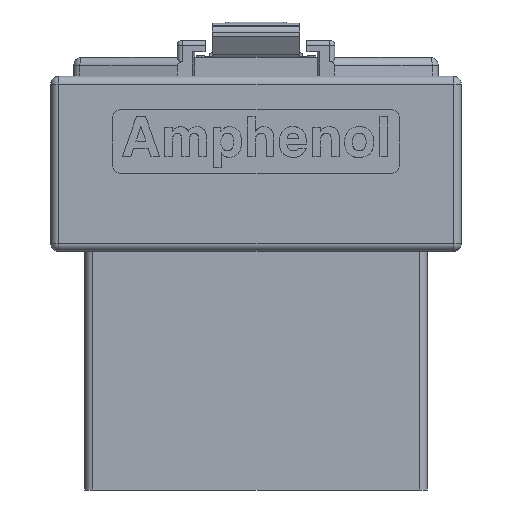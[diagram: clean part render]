
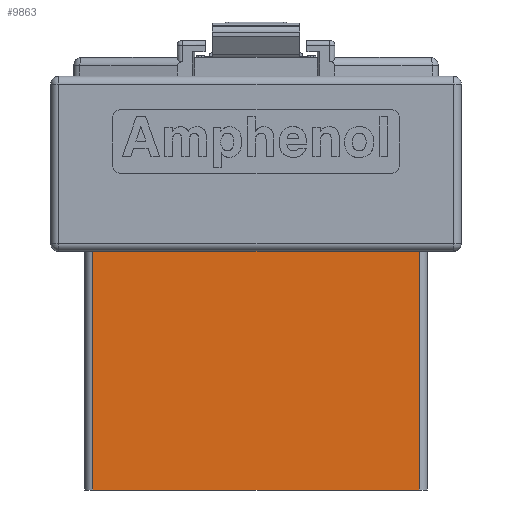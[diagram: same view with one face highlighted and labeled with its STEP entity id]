
A CAD part, front view. The second image highlights one B-rep face of the part: STEP entity #9863.
In plain terms, the highlighted planar face has unit normal (0, -1, 0).
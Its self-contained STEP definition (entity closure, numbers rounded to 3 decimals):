
#702=DIRECTION('',(-1.,0.,0.));
#703=VECTOR('',#702,20.5);
#704=CARTESIAN_POINT('',(22.6,0.925,-7.693));
#705=LINE('',#704,#703);
#2716=DIRECTION('',(0.,0.,1.));
#2717=VECTOR('',#2716,15.);
#2718=CARTESIAN_POINT('',(2.1,0.925,-22.693));
#2719=LINE('',#2718,#2717);
#2720=DIRECTION('',(0.,0.,-1.));
#2721=VECTOR('',#2720,15.);
#2722=CARTESIAN_POINT('',(22.6,0.925,-7.693));
#2723=LINE('',#2722,#2721);
#2734=DIRECTION('',(-1.,0.,0.));
#2735=VECTOR('',#2734,20.5);
#2736=CARTESIAN_POINT('',(22.6,0.925,-22.693));
#2737=LINE('',#2736,#2735);
#5834=CARTESIAN_POINT('',(2.1,0.925,-22.693));
#5835=CARTESIAN_POINT('',(2.1,0.925,-7.693));
#5836=VERTEX_POINT('',#5834);
#5837=VERTEX_POINT('',#5835);
#5851=CARTESIAN_POINT('',(22.6,0.925,-22.693));
#5853=VERTEX_POINT('',#5851);
#5854=CARTESIAN_POINT('',(22.6,0.925,-7.693));
#5855=VERTEX_POINT('',#5854);
#9850=CARTESIAN_POINT('',(23.1,0.925,-7.693));
#9851=DIRECTION('',(0.,-1.,0.));
#9852=DIRECTION('',(-1.,0.,0.));
#9853=AXIS2_PLACEMENT_3D('',#9850,#9851,#9852);
#9854=PLANE('',#9853);
#9855=ORIENTED_EDGE('',*,*,#9841,.T.);
#9856=ORIENTED_EDGE('',*,*,#6702,.F.);
#9858=ORIENTED_EDGE('',*,*,#9857,.T.);
#9860=ORIENTED_EDGE('',*,*,#9859,.T.);
#9861=EDGE_LOOP('',(#9855,#9856,#9858,#9860));
#9862=FACE_OUTER_BOUND('',#9861,.F.);
#9863=ADVANCED_FACE('',(#9862),#9854,.T.);
#6702=EDGE_CURVE('',#5855,#5837,#705,.T.);
#9841=EDGE_CURVE('',#5836,#5837,#2719,.T.);
#9857=EDGE_CURVE('',#5855,#5853,#2723,.T.);
#9859=EDGE_CURVE('',#5853,#5836,#2737,.T.);
